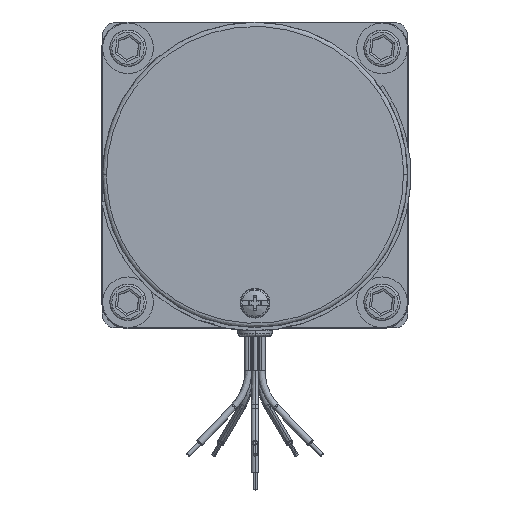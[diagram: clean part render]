
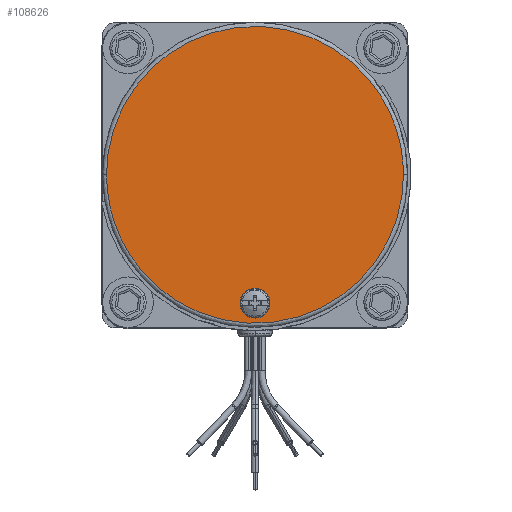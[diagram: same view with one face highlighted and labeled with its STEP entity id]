
A CAD part, top view. The second image highlights one B-rep face of the part: STEP entity #108626.
In plain terms, the highlighted planar face has unit normal (0, 0, 1).
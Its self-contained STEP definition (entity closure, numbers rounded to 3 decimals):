
#2847 = CARTESIAN_POINT ( 'NONE',  ( 0.242, -2.381, 35.296 ) ) ;
#2850 = CARTESIAN_POINT ( 'NONE',  ( 0.242, -1.898, 35.296 ) ) ;
#2859 = CARTESIAN_POINT ( 'NONE',  ( -0.242, -1.898, 35.296 ) ) ;
#2860 = CARTESIAN_POINT ( 'NONE',  ( -0.242, -2.381, 35.296 ) ) ;
#5062 = EDGE_CURVE ( 'NONE', #79774, #79686, #129979, .T. ) ;
#5370 = EDGE_CURVE ( 'NONE', #78909, #79254, #7721, .T. ) ;
#6808 = CARTESIAN_POINT ( 'NONE',  ( 2.756, 5.512, 35.296 ) ) ;
#6813 = CARTESIAN_POINT ( 'NONE',  ( -2.756, 5.512, 35.296 ) ) ;
#6820 = CARTESIAN_POINT ( 'NONE',  ( -2.756, 0., 35.296 ) ) ;
#6822 = CARTESIAN_POINT ( 'NONE',  ( 2.756, 0., 35.296 ) ) ;
#7721 =( BOUNDED_CURVE ( )  B_SPLINE_CURVE ( 3, ( #138063, #138048, #138051, #138066 ),
 .UNSPECIFIED., .F., .F. ) 
 B_SPLINE_CURVE_WITH_KNOTS ( ( 4, 4 ),
 ( 0.75, 1.25 ),
 .UNSPECIFIED. ) 
 CURVE ( )  GEOMETRIC_REPRESENTATION_ITEM ( )  RATIONAL_B_SPLINE_CURVE ( ( 1., 0.333, 0.333, 1. ) ) 
 REPRESENTATION_ITEM ( '' )  );
#9023 = FACE_OUTER_BOUND ( 'NONE', #11741, .T. ) ;
#9026 = FACE_BOUND ( 'NONE', #10928, .T. ) ;
#10928 = EDGE_LOOP ( 'NONE', ( #129415, #128233 ) ) ;
#11741 = EDGE_LOOP ( 'NONE', ( #129376, #128980 ) ) ;
#28617 = AXIS2_PLACEMENT_3D ( 'NONE', #95642, #95660, #95662 ) ;
#29524 = CARTESIAN_POINT ( 'NONE',  ( 2.756, 0., 35.296 ) ) ;
#29526 = CARTESIAN_POINT ( 'NONE',  ( 2.756, -5.512, 35.296 ) ) ;
#29539 = CARTESIAN_POINT ( 'NONE',  ( -2.756, -5.512, 35.296 ) ) ;
#29541 = CARTESIAN_POINT ( 'NONE',  ( -2.756, 0., 35.296 ) ) ;
#69427 =( BOUNDED_CURVE ( )  B_SPLINE_CURVE ( 3, ( #2847, #2850, #2859, #2860 ),
 .UNSPECIFIED., .F., .F. ) 
 B_SPLINE_CURVE_WITH_KNOTS ( ( 4, 4 ),
 ( 0.25, 0.75 ),
 .UNSPECIFIED. ) 
 CURVE ( )  GEOMETRIC_REPRESENTATION_ITEM ( )  RATIONAL_B_SPLINE_CURVE ( ( 1., 0.333, 0.333, 1. ) ) 
 REPRESENTATION_ITEM ( '' )  );
#69449 =( BOUNDED_CURVE ( )  B_SPLINE_CURVE ( 3, ( #29524, #29526, #29539, #29541 ),
 .UNSPECIFIED., .F., .F. ) 
 B_SPLINE_CURVE_WITH_KNOTS ( ( 4, 4 ),
 ( 0., 0.5 ),
 .UNSPECIFIED. ) 
 CURVE ( )  GEOMETRIC_REPRESENTATION_ITEM ( )  RATIONAL_B_SPLINE_CURVE ( ( 1., 0.333, 0.333, 1. ) ) 
 REPRESENTATION_ITEM ( '' )  );
#77237 = CARTESIAN_POINT ( 'NONE',  ( -0.242, -2.381, 35.296 ) ) ;
#77405 = CARTESIAN_POINT ( 'NONE',  ( 0.242, -2.381, 35.296 ) ) ;
#77844 = CARTESIAN_POINT ( 'NONE',  ( 2.756, 0., 35.296 ) ) ;
#77995 = CARTESIAN_POINT ( 'NONE',  ( -2.756, 0., 35.296 ) ) ;
#78909 = VERTEX_POINT ( 'NONE', #77237 ) ;
#79254 = VERTEX_POINT ( 'NONE', #77405 ) ;
#79686 = VERTEX_POINT ( 'NONE', #77844 ) ;
#79774 = VERTEX_POINT ( 'NONE', #77995 ) ;
#80214 = EDGE_CURVE ( 'NONE', #79254, #78909, #69427, .T. ) ;
#80283 = EDGE_CURVE ( 'NONE', #79686, #79774, #69449, .T. ) ;
#95642 = CARTESIAN_POINT ( 'NONE',  ( 0., 0., 35.296 ) ) ;
#95656 = PLANE ( 'NONE',  #28617 ) ;
#95660 = DIRECTION ( 'NONE',  ( 0., 0., -1. ) ) ;
#95662 = DIRECTION ( 'NONE',  ( 0., 1., 0. ) ) ;
#108626 = ADVANCED_FACE ( 'NONE', ( #9023, #9026 ), #95656, .F. ) ;
#128233 = ORIENTED_EDGE ( 'NONE', *, *, #80214, .F. ) ;
#128980 = ORIENTED_EDGE ( 'NONE', *, *, #80283, .F. ) ;
#129376 = ORIENTED_EDGE ( 'NONE', *, *, #5062, .F. ) ;
#129415 = ORIENTED_EDGE ( 'NONE', *, *, #5370, .F. ) ;
#129979 =( BOUNDED_CURVE ( )  B_SPLINE_CURVE ( 3, ( #6820, #6813, #6808, #6822 ),
 .UNSPECIFIED., .F., .F. ) 
 B_SPLINE_CURVE_WITH_KNOTS ( ( 4, 4 ),
 ( 0.5, 1. ),
 .UNSPECIFIED. ) 
 CURVE ( )  GEOMETRIC_REPRESENTATION_ITEM ( )  RATIONAL_B_SPLINE_CURVE ( ( 1., 0.333, 0.333, 1. ) ) 
 REPRESENTATION_ITEM ( '' )  );
#138048 = CARTESIAN_POINT ( 'NONE',  ( -0.242, -2.864, 35.296 ) ) ;
#138051 = CARTESIAN_POINT ( 'NONE',  ( 0.242, -2.864, 35.296 ) ) ;
#138063 = CARTESIAN_POINT ( 'NONE',  ( -0.242, -2.381, 35.296 ) ) ;
#138066 = CARTESIAN_POINT ( 'NONE',  ( 0.242, -2.381, 35.296 ) ) ;
